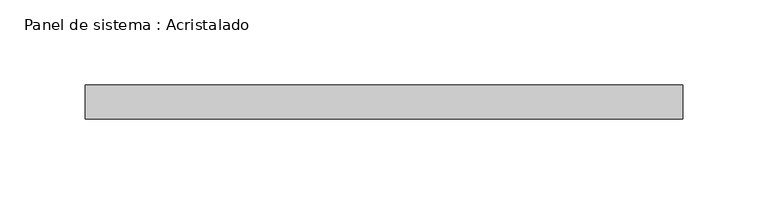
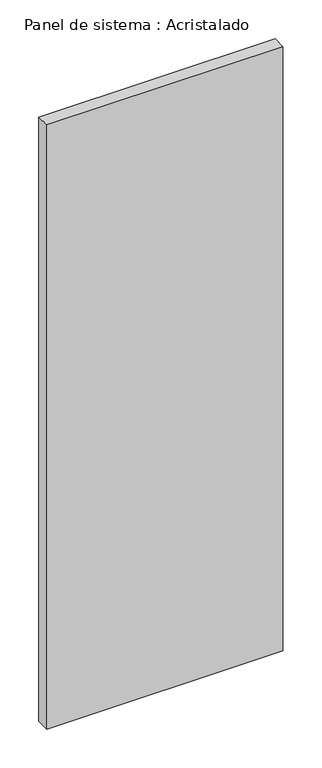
"""IFC4 building model written with IfcOpenShell, lengths in millimetres: plate geometry, Panel de sistema : Acristalado."""

import ifcopenshell
import ifcopenshell.guid

model = None  # the IFC model being written
_history = None  # IfcOwnerHistory: only IFC2X3 demands one
_inside = {}  # id of a spatial element -> (the spatial element, [elements in it])
_under = {}  # id of a project, library or spatial element -> (it, [spatial elements below it])
_declared = {}  # id of a project -> (the project, [libraries it declares])
_typed = {}  # id of a type object -> (the type object, [elements of that type])
_made_of = {}  # id of a material, layer set ... -> (it, [elements and type objects made of it])


def new_model(schema):
    """Start an empty IFC model of exactly this schema.

    Asked for "IFC4X3", IfcOpenShell would pick the latest addendum, in which some entities
    have other attributes; the version numbers below select the first issue.
    IFC2X3 requires an IfcOwnerHistory on every rooted entity: one is made here for all.
    """
    global model, _history
    if schema == "IFC4X3":
        model = ifcopenshell.file(schema_version=(4, 3, 0, 0))
    else:
        model = ifcopenshell.file(schema=schema)
    _inside.clear()
    _under.clear()
    _declared.clear()
    _typed.clear()
    _made_of.clear()
    _history = None
    if model.schema == "IFC2X3":
        org = make("IfcOrganization", Name="unknown")
        user = make(
            "IfcPersonAndOrganization",
            ThePerson=make("IfcPerson", FamilyName="unknown"),
            TheOrganization=org,
        )
        app = make(
            "IfcApplication",
            ApplicationDeveloper=org,
            Version="unknown",
            ApplicationFullName="unknown",
            ApplicationIdentifier="unknown",
        )
        _history = make(
            "IfcOwnerHistory",
            OwningUser=user,
            OwningApplication=app,
            ChangeAction="ADDED",
            CreationDate=0,
        )
    return model


def make(cls, **values):
    """One entity of the class cls with the attributes given. An attribute that is None is left unset."""
    return model.create_entity(
        cls, **{name: value for name, value in values.items() if value is not None}
    )


def rooted(cls, **values):
    """An entity with a GlobalId (a new one), such as an element, a storey or a relation."""
    return make(cls, GlobalId=ifcopenshell.guid.new(), OwnerHistory=_history, **values)


def si_unit(unit_type, name, prefix=None):
    """IfcSIUnit, for example si_unit("LENGTHUNIT", "METRE", prefix="MILLI")."""
    return make("IfcSIUnit", UnitType=unit_type, Prefix=prefix, Name=name)


def assignment(units):
    """IfcUnitAssignment: the units of a project."""
    return None if units is None else make("IfcUnitAssignment", Units=units)


def point(xyz):
    """IfcCartesianPoint."""
    return None if xyz is None else make("IfcCartesianPoint", Coordinates=xyz)


def direction(xyz):
    """IfcDirection."""
    return None if xyz is None else make("IfcDirection", DirectionRatios=xyz)


def frame(location, z_axis=None, x_axis=None):
    """IfcAxis2Placement3D, a coordinate frame: its origin and axes. An axis left out is left unset."""
    return make(
        "IfcAxis2Placement3D",
        Location=point(location),
        Axis=direction(z_axis),
        RefDirection=direction(x_axis),
    )


def origin():
    """The frame at (0, 0, 0) with its axes left unset."""
    return frame((0.0, 0.0, 0.0))


def origin_with_axes():
    """The frame at (0, 0, 0) with the z axis (0, 0, 1) and the x axis (1, 0, 0) written out."""
    return frame((0.0, 0.0, 0.0), z_axis=(0.0, 0.0, 1.0), x_axis=(1.0, 0.0, 0.0))


def place(relative_to, where):
    """IfcLocalPlacement: puts the frame where relative to a parent placement (None: the world)."""
    return make(
        "IfcLocalPlacement", PlacementRelTo=relative_to, RelativePlacement=where
    )


def context(
    kind, dimensions, precision=None, world=None, true_north=None, identifier=None
):
    """IfcGeometricRepresentationContext, for example the 3D "Model" context."""
    return make(
        "IfcGeometricRepresentationContext",
        ContextIdentifier=identifier,
        ContextType=kind,
        CoordinateSpaceDimension=dimensions,
        Precision=precision,
        WorldCoordinateSystem=world,
        TrueNorth=true_north,
    )


def project(units=None, contexts=None):
    """IfcProject with its units and contexts."""
    return rooted(
        "IfcProject",
        Name="project",
        RepresentationContexts=contexts,
        UnitsInContext=assignment(units),
    )


def spatial(cls, under=None, at=None, **own):
    """A site, building, storey or space (cls), placed at a placement, below another one or the project."""
    s = rooted(cls, ObjectPlacement=at, **own)
    if under is not None:
        _under.setdefault(under.id(), (under, []))[1].append(s)
    return s


def polyline(points):
    """IfcPolyline through the points."""
    return make("IfcPolyline", Points=[point(p) for p in points])


def outline(outer, holes=None, kind="AREA"):
    """IfcArbitraryClosedProfileDef: a profile drawn as a closed curve; with holes, ...WithVoids."""
    if holes is None:
        return make("IfcArbitraryClosedProfileDef", ProfileType=kind, OuterCurve=outer)
    return make(
        "IfcArbitraryProfileDefWithVoids",
        ProfileType=kind,
        OuterCurve=outer,
        InnerCurves=holes,
    )


def extrude(swept, where, along, depth):
    """IfcExtrudedAreaSolid: the profile swept, set in the frame where, extruded along a direction by depth."""
    return make(
        "IfcExtrudedAreaSolid",
        SweptArea=swept,
        Position=where,
        ExtrudedDirection=direction(along),
        Depth=depth,
    )


def shape(context_of_items, identifier, shape_type, items):
    """IfcShapeRepresentation: the items that make up one representation, for example the "Body"."""
    return make(
        "IfcShapeRepresentation",
        ContextOfItems=context_of_items,
        RepresentationIdentifier=identifier,
        RepresentationType=shape_type,
        Items=items,
    )


def source(mapping_origin, context_of_items, identifier, shape_type, items):
    """IfcRepresentationMap: a shape defined once, which mapped items show again and again."""
    return make(
        "IfcRepresentationMap",
        MappingOrigin=mapping_origin,
        MappedRepresentation=shape(context_of_items, identifier, shape_type, items),
    )


def transform(
    local_origin,
    x_axis=None,
    y_axis=None,
    z_axis=None,
    scale=None,
    scale2=None,
    scale3=None,
    uniform=True,
):
    """IfcCartesianTransformationOperator3D, or its non-uniform kind. x_axis, y_axis, z_axis: its Axis1, 2, 3."""
    if uniform:
        return make(
            "IfcCartesianTransformationOperator3D",
            Axis1=direction(x_axis),
            Axis2=direction(y_axis),
            LocalOrigin=point(local_origin),
            Scale=scale,
            Axis3=direction(z_axis),
        )
    return make(
        "IfcCartesianTransformationOperator3DnonUniform",
        Axis1=direction(x_axis),
        Axis2=direction(y_axis),
        LocalOrigin=point(local_origin),
        Scale=scale,
        Axis3=direction(z_axis),
        Scale2=scale2,
        Scale3=scale3,
    )


def mapped(mapping_source, mapping_target):
    """IfcMappedItem: shows the shape of a source again, moved by a transform."""
    return make(
        "IfcMappedItem", MappingSource=mapping_source, MappingTarget=mapping_target
    )


def made_of(thing, what):
    """Note that an element or type object is made of a material, layer set ...; save() writes the relation."""
    if what is not None:
        _made_of.setdefault(what.id(), (what, []))[1].append(thing)
    return thing


def element(
    cls,
    number,
    at=None,
    inside=None,
    cuts=None,
    type_object=None,
    material=None,
    context=None,
    identifier="Body",
    shape_type=None,
    held_by="IfcProductDefinitionShape",
    body=None,
    shapes=None,
    **own,
):
    """One element of the class cls, such as IfcWall. Its Tag is "e" and its number.

    at: its placement. inside: the storey or other place that contains it. cuts: it is an
    opening in that element (IfcRelVoidsElement). A single representation is given by context,
    identifier, shape_type and body (its items); several are given by shapes. held_by: the class
    of the entity that holds the representations. save() writes the other relations.
    """
    e = rooted(cls, Tag="e%d" % number, ObjectPlacement=at, **own)
    if body is not None:
        shapes = [shape(context, identifier, shape_type, body)]
    if shapes is not None:
        e.Representation = make(held_by, Representations=shapes)
    if inside is not None:
        _inside.setdefault(inside.id(), (inside, []))[1].append(e)
    if cuts is not None:
        rooted(
            "IfcRelVoidsElement", RelatingBuildingElement=cuts, RelatedOpeningElement=e
        )
    if type_object is not None:
        _typed.setdefault(type_object.id(), (type_object, []))[1].append(e)
    return made_of(e, material)


def aggregate(whole, parts):
    """IfcRelAggregates: a whole, such as a stair, and the parts it consists of."""
    return rooted("IfcRelAggregates", RelatingObject=whole, RelatedObjects=parts)


def save(model, path):
    """Write the relations noted so far, then the file.

    IfcRelAggregates (storeys below a building ...), IfcRelContainedInSpatialStructure (elements
    in a storey), IfcRelDefinesByType, IfcRelAssociatesMaterial and IfcRelDeclares: one each for
    every whole, place, type object, material and project.
    """
    for whole, parts in _under.values():
        aggregate(whole, parts)
    for where, things in _inside.values():
        rooted(
            "IfcRelContainedInSpatialStructure",
            RelatedElements=things,
            RelatingStructure=where,
        )
    for kind, things in _typed.values():
        rooted("IfcRelDefinesByType", RelatedObjects=things, RelatingType=kind)
    for what, things in _made_of.values():
        rooted("IfcRelAssociatesMaterial", RelatedObjects=things, RelatingMaterial=what)
    for by, libraries in _declared.values():
        rooted("IfcRelDeclares", RelatingContext=by, RelatedDefinitions=libraries)
    model.write(path)


def panel_de_sistema_acristalado_9d1f8936(model_context):
    return source(origin(), model_context, "Body", "SweptSolid", [
        extrude(outline(polyline([(175.0, -10.0), (-175.0, -10.0), (-175.0, 10.0), (175.0, 10.0), (175.0, -10.0)])), origin_with_axes(), (0.0, 0.0, 1.0), 946.3856213),
    ])


if __name__ == "__main__":
    model = new_model("IFC4")
    model_context = context("Model", 3, world=origin())
    ifc_project = project(units=[si_unit("LENGTHUNIT", "METRE", prefix="MILLI")], contexts=[model_context])
    site = spatial("IfcSite", under=ifc_project)
    building = spatial("IfcBuilding", under=site)
    placement = place(None, origin())
    panel_de_sistema_acristalado_shape = panel_de_sistema_acristalado_9d1f8936(model_context)
    element("IfcPlate", 1, ObjectType="Panel de sistema : Acristalado", at=placement, inside=building, context=model_context, shape_type="MappedRepresentation", body=[
        mapped(panel_de_sistema_acristalado_shape, transform((0.0, 0.0, 0.0), x_axis=(1.0, 0.0, 0.0), y_axis=(0.0, 1.0, 0.0), z_axis=(0.0, 0.0, 1.0))),
    ])
    save(model, "model.ifc")
